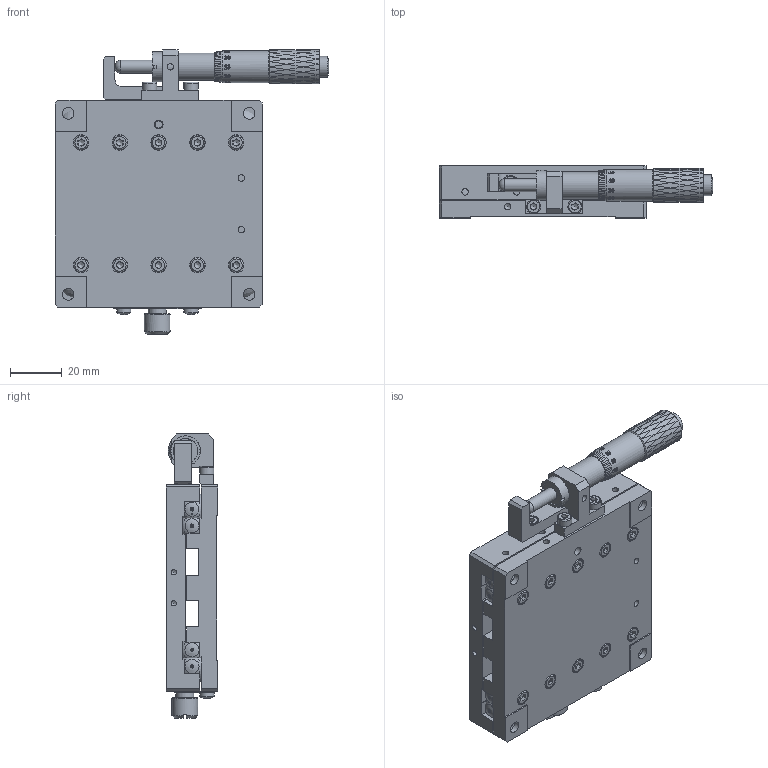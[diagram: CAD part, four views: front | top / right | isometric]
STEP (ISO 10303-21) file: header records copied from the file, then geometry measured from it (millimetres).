
FILE_DESCRIPTION (( 'STEP AP203' ), '1' );
FILE_NAME ('BPEA80.STEP', '2024-07-27T02:50:13', ( 'Windows User' ), ( 'P R C' ), 'SwSTEP 2.0', 'SolidWorks 2024', '' );
FILE_SCHEMA (( 'CONFIG_CONTROL_DESIGN' ));
Products named in the file (1): BPEA80
Bounding box: 105.8 x 20 x 110.15 mm (x, y, z)
Volume: 111610.3 mm3; surface area: 68792.6 mm2
Topology: 41 solids, 41 shells, 1908 faces, 4675 edges, 2982 vertices
Faces by surface type: plane 712, bspline 562, cylinder 379, cone 217, torus 35, sphere 3
Full cylindrical faces by diameter (mm): 2.05 x4, 2.5 x21, 2.55 x20, 2.95 x9, 3 x28, 3.1 x2, 3.2 x2, 3.3 x13, 3.4 x23, 4.4 x20, 4.5 x4, 5 x2, 5.5 x26, 5.6 x2, 5.8 x2, 6 x20, 7 x1, 8 x6, 8.1 x1, 9 x1, 9.5 x2, 10 x1, 10.373 x1, 11.5 x1, 12.25 x1, 13.3 x1
Entity records: 95549 total; most frequent: CARTESIAN_POINT 57978, ORIENTED_EDGE 8362, DIRECTION 5647, EDGE_CURVE 4181, VERTEX_POINT 2860, EDGE_LOOP 2561, AXIS2_PLACEMENT_3D 2192, FACE_OUTER_BOUND 2135
